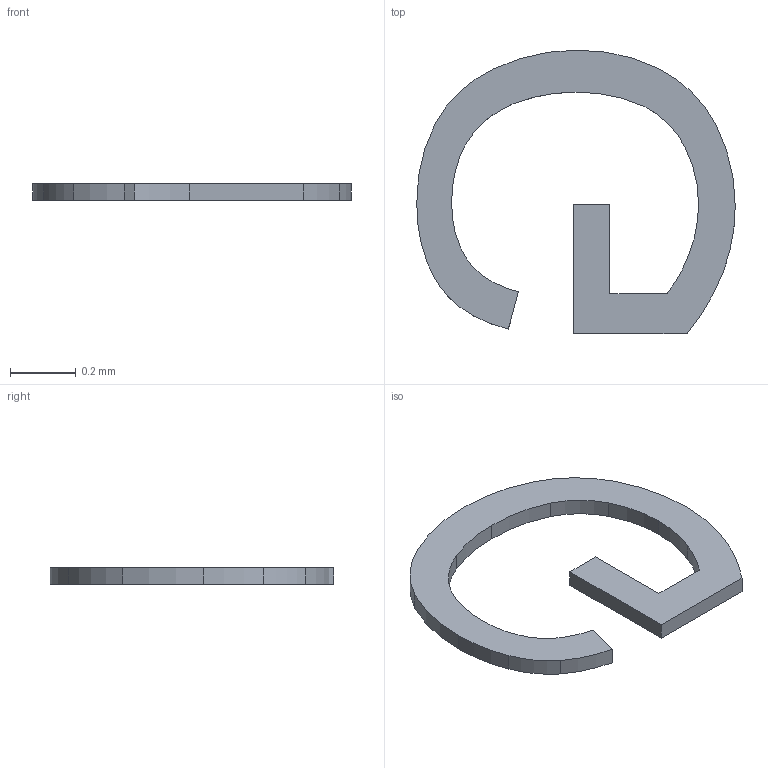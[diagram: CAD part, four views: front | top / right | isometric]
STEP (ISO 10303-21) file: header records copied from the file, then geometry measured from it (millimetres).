
FILE_DESCRIPTION(/* description */ ('STEP AP242 Edition 2','CAx-IF Rec.Pracs.---Representation and Presentation of Product Manufacturing Information (PMI)---4.0---2014-10-13','CAx-IF Rec.Pracs.---3D Tessellated Geometry---0.4---2014-09-14','2;1','CAx-IF Rec.Pracs.---User Defined Attributes---1.5---2016-08-15'),/* implementation_level */ '2;1');
FILE_NAME(/* name */ 'Drone Layout - Surface 323',/* time_stamp */ '2026-10-04T22:22:56Z',/* author */ (''),/* organization */ (''),/* preprocessor_version */ 'ST-DEVELOPER v20',/* originating_system */ 'ONSHAPE BY PTC INC, 1.221',/* authorisation */ ' ');
FILE_SCHEMA (('AP242_MANAGED_MODEL_BASED_3D_ENGINEERING_MIM_LF { 1 0 10303 442 3 1 4 }'));
Length unit declared in the file: metre
Products named in the file (1): Text_GND
Bounding box: 0.97 x 0.86 x 0.05 mm (x, y, z)
Volume: 0 mm3; surface area: 0.9 mm2
Topology: 1 solids, 1 shells, 31 faces, 87 edges, 58 vertices
Faces by surface type: cylinder 23, plane 8
Entity records: 1061 total; most frequent: CARTESIAN_POINT 240, DIRECTION 176, ORIENTED_EDGE 174, EDGE_CURVE 87, AXIS2_PLACEMENT_3D 78, VERTEX_POINT 58, CIRCLE 46, EDGE_LOOP 31
